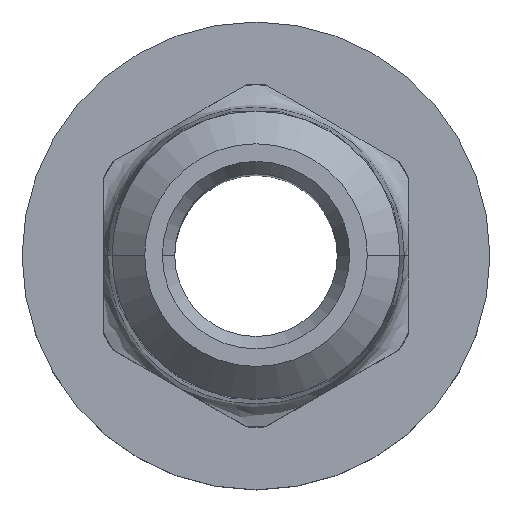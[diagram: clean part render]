
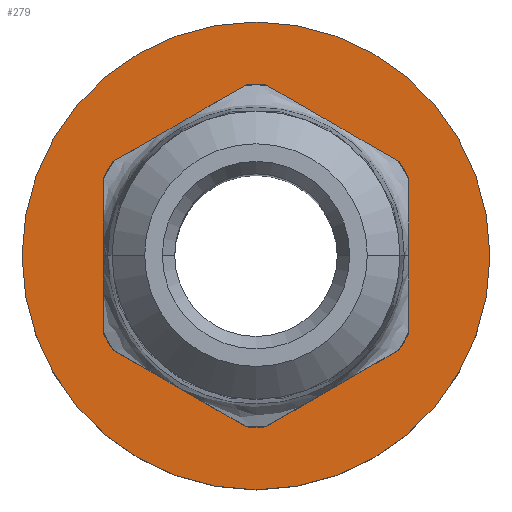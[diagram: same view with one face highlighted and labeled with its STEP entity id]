
A CAD part, top view. The second image highlights one B-rep face of the part: STEP entity #279.
In plain terms, the highlighted planar face has unit normal (0, 0, 1).
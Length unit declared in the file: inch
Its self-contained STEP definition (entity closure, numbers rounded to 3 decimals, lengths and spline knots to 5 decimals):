
#83 = ORIENTED_EDGE ( 'NONE', *, *, #1451, .F. ) ;
#105 = EDGE_CURVE ( 'NONE', #293, #486, #1744, .T. ) ;
#219 = DIRECTION ( 'NONE',  ( 0., 0., 1. ) ) ;
#232 = CARTESIAN_POINT ( 'NONE',  ( 0.43012, 0., -0.51539 ) ) ;
#242 = CARTESIAN_POINT ( 'NONE',  ( 0.23244, 0., -0.51539 ) ) ;
#267 = ORIENTED_EDGE ( 'NONE', *, *, #105, .F. ) ;
#277 = DIRECTION ( 'NONE',  ( -1., 0., 0. ) ) ;
#279 = ADVANCED_FACE ( 'NONE', ( #643, #1023 ), #1392, .F. ) ;
#293 = VERTEX_POINT ( 'NONE', #1249 ) ;
#353 = EDGE_CURVE ( 'NONE', #486, #293, #1361, .T. ) ;
#463 = CARTESIAN_POINT ( 'NONE',  ( 0., 0., -0.51539 ) ) ;
#486 = VERTEX_POINT ( 'NONE', #232 ) ;
#500 = EDGE_CURVE ( 'NONE', #1439, #1072, #1561, .T. ) ;
#587 = DIRECTION ( 'NONE',  ( -1., 0., 0. ) ) ;
#599 = DIRECTION ( 'NONE',  ( 0., 0., -1. ) ) ;
#612 = CARTESIAN_POINT ( 'NONE',  ( 0., 0., -0.51539 ) ) ;
#616 = CIRCLE ( 'NONE', #1380, 0.23244 ) ;
#643 = FACE_BOUND ( 'NONE', #1425, .T. ) ;
#788 = DIRECTION ( 'NONE',  ( 1., 0., 0. ) ) ;
#799 = EDGE_LOOP ( 'NONE', ( #267, #1588 ) ) ;
#934 = AXIS2_PLACEMENT_3D ( 'NONE', #1620, #1070, #277 ) ;
#994 = AXIS2_PLACEMENT_3D ( 'NONE', #463, #599, #1689 ) ;
#1020 = DIRECTION ( 'NONE',  ( 0., 0., -1. ) ) ;
#1023 = FACE_OUTER_BOUND ( 'NONE', #799, .T. ) ;
#1039 = CARTESIAN_POINT ( 'NONE',  ( 0., 0., -0.51539 ) ) ;
#1070 = DIRECTION ( 'NONE',  ( 0., 0., -1. ) ) ;
#1072 = VERTEX_POINT ( 'NONE', #242 ) ;
#1174 = DIRECTION ( 'NONE',  ( 1., 0., 0. ) ) ;
#1213 = CARTESIAN_POINT ( 'NONE',  ( 0., 0., -0.51539 ) ) ;
#1214 = CARTESIAN_POINT ( 'NONE',  ( -0.23244, 0., -0.51539 ) ) ;
#1244 = AXIS2_PLACEMENT_3D ( 'NONE', #612, #1020, #587 ) ;
#1249 = CARTESIAN_POINT ( 'NONE',  ( -0.43012, 0., -0.51539 ) ) ;
#1347 = DIRECTION ( 'NONE',  ( 0., 0., 1. ) ) ;
#1361 = CIRCLE ( 'NONE', #994, 0.43012 ) ;
#1380 = AXIS2_PLACEMENT_3D ( 'NONE', #1213, #1347, #788 ) ;
#1392 = PLANE ( 'NONE',  #1244 ) ;
#1425 = EDGE_LOOP ( 'NONE', ( #83, #1738 ) ) ;
#1439 = VERTEX_POINT ( 'NONE', #1214 ) ;
#1451 = EDGE_CURVE ( 'NONE', #1072, #1439, #616, .T. ) ;
#1561 = CIRCLE ( 'NONE', #1601, 0.23244 ) ;
#1588 = ORIENTED_EDGE ( 'NONE', *, *, #353, .F. ) ;
#1601 = AXIS2_PLACEMENT_3D ( 'NONE', #1039, #219, #1174 ) ;
#1620 = CARTESIAN_POINT ( 'NONE',  ( 0., 0., -0.51539 ) ) ;
#1689 = DIRECTION ( 'NONE',  ( -1., 0., 0. ) ) ;
#1738 = ORIENTED_EDGE ( 'NONE', *, *, #500, .F. ) ;
#1744 = CIRCLE ( 'NONE', #934, 0.43012 ) ;
